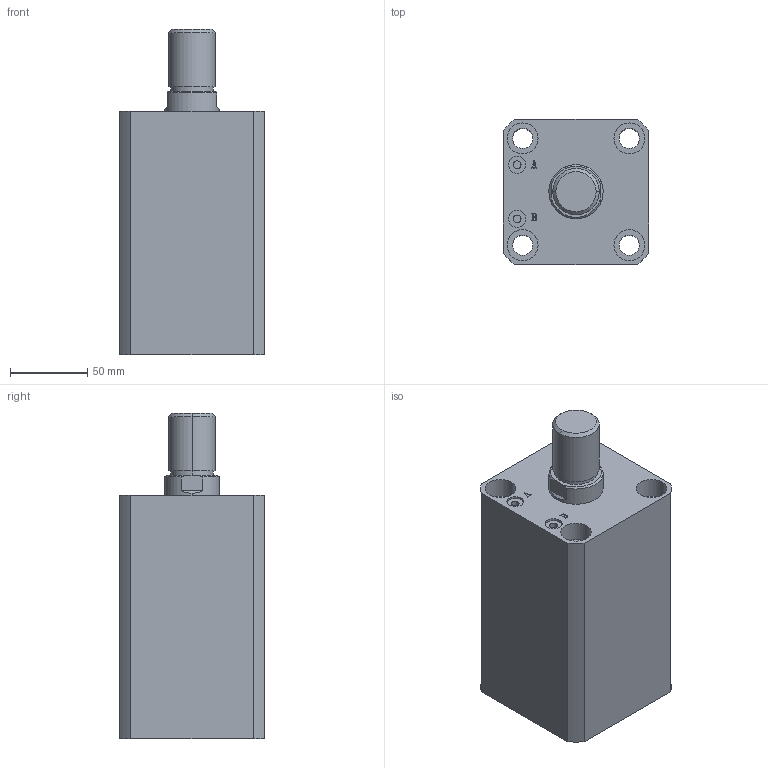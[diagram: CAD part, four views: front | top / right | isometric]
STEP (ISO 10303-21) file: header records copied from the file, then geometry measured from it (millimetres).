
FILE_DESCRIPTION (( 'STEP AP203' ), '1' );
FILE_NAME ('HTB-SDMA63-90W.STEP', '2019-10-08T01:16:08', ( '微软用户' ), ( '微软中国' ), 'SwSTEP 2.0', 'SolidWorks 2012', '' );
FILE_SCHEMA (( 'CONFIG_CONTROL_DESIGN' ));
Length unit declared in the file: millimetre
Products named in the file (3): HTB-SDMA63-90W; HTB-SDMA63-90W活塞杆; HTB-SDMA63-90掛极
Assembly tree (2 placements, depth 2):
  HTB-SDMA63-90W
    HTB-SDMA63-90掛极
    HTB-SDMA63-90W活塞杆
Bounding box: 94 x 94 x 210 mm (x, y, z)
Volume: 1113983 mm3; surface area: 159052.3 mm2
Topology: 2 solids, 2 shells, 141 faces, 337 edges, 222 vertices
Faces by surface type: plane 67, cylinder 48, bspline 16, torus 6, cone 4
Entity records: 5176 total; most frequent: CARTESIAN_POINT 1593, ORIENTED_EDGE 674, DIRECTION 669, EDGE_CURVE 337, AXIS2_PLACEMENT_3D 242, VERTEX_POINT 222, VECTOR 185, LINE 185
